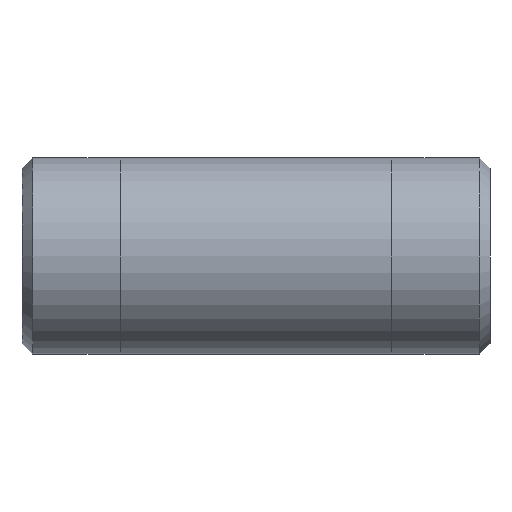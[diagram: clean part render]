
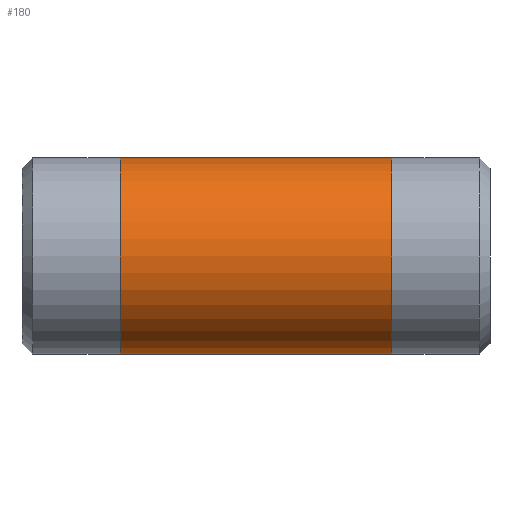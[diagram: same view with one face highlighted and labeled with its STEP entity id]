
A CAD part, left-side view. The second image highlights one B-rep face of the part: STEP entity #180.
In plain terms, the highlighted cylindrical face has radius 10.668 mm (diameter 21.336 mm), a full revolution.
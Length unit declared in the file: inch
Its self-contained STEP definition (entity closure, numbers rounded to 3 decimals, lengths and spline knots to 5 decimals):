
#25=CYLINDRICAL_SURFACE('',#220,0.42);
#34=FACE_OUTER_BOUND('',#47,.T.);
#47=EDGE_LOOP('',(#155,#156,#157,#158,#159,#160));
#55=LINE('',#338,#61);
#61=VECTOR('',#283,0.42);
#77=CIRCLE('',#218,0.42);
#78=CIRCLE('',#219,0.42);
#79=CIRCLE('',#221,0.42);
#80=CIRCLE('',#222,0.42);
#95=VERTEX_POINT('',#329);
#96=VERTEX_POINT('',#330);
#97=VERTEX_POINT('',#334);
#98=VERTEX_POINT('',#335);
#117=EDGE_CURVE('',#95,#96,#77,.T.);
#118=EDGE_CURVE('',#96,#95,#78,.T.);
#119=EDGE_CURVE('',#97,#98,#79,.T.);
#120=EDGE_CURVE('',#98,#97,#80,.T.);
#121=EDGE_CURVE('',#98,#96,#55,.T.);
#155=ORIENTED_EDGE('',*,*,#119,.F.);
#156=ORIENTED_EDGE('',*,*,#120,.F.);
#157=ORIENTED_EDGE('',*,*,#121,.T.);
#158=ORIENTED_EDGE('',*,*,#118,.T.);
#159=ORIENTED_EDGE('',*,*,#117,.T.);
#160=ORIENTED_EDGE('',*,*,#121,.F.);
#180=ADVANCED_FACE('',(#34),#25,.T.);
#218=AXIS2_PLACEMENT_3D('',#331,#273,#274);
#219=AXIS2_PLACEMENT_3D('',#332,#275,#276);
#220=AXIS2_PLACEMENT_3D('',#333,#277,#278);
#221=AXIS2_PLACEMENT_3D('',#336,#279,#280);
#222=AXIS2_PLACEMENT_3D('',#337,#281,#282);
#273=DIRECTION('center_axis',(0.,-1.,0.));
#274=DIRECTION('ref_axis',(1.,0.,0.));
#275=DIRECTION('center_axis',(0.,-1.,0.));
#276=DIRECTION('ref_axis',(1.,0.,0.));
#277=DIRECTION('center_axis',(0.,-1.,0.));
#278=DIRECTION('ref_axis',(0.,0.,-1.));
#279=DIRECTION('center_axis',(0.,-1.,0.));
#280=DIRECTION('ref_axis',(1.,0.,0.));
#281=DIRECTION('center_axis',(0.,-1.,0.));
#282=DIRECTION('ref_axis',(1.,0.,0.));
#283=DIRECTION('',(0.,1.,0.));
#329=CARTESIAN_POINT('',(0.,1.58,-0.42));
#330=CARTESIAN_POINT('',(0.,1.58,0.42));
#331=CARTESIAN_POINT('Origin',(0.,1.58,0.));
#332=CARTESIAN_POINT('Origin',(0.,1.58,0.));
#333=CARTESIAN_POINT('Origin',(0.,1.,0.));
#334=CARTESIAN_POINT('',(0.,0.42,-0.42));
#335=CARTESIAN_POINT('',(0.,0.42,0.42));
#336=CARTESIAN_POINT('Origin',(0.,0.42,0.));
#337=CARTESIAN_POINT('Origin',(0.,0.42,0.));
#338=CARTESIAN_POINT('',(0.,1.,0.42));
